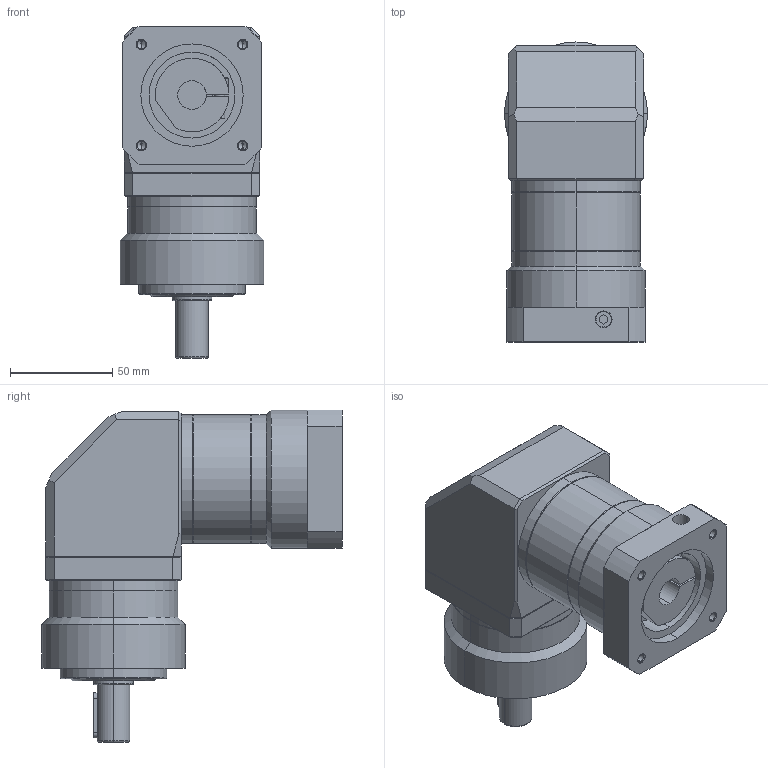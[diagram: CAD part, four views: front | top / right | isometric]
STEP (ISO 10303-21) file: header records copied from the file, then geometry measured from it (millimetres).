
FILE_DESCRIPTION(/* description */ (''),/* implementation_level */ '2;1');
FILE_NAME(/* name */ 'GER070-_3-100_ 外形图-∅14x36.5-∅50x6-∅70xM5-□67.5_step.stp',/* time_stamp */ '2025-03-24T15:02:35+08:00',/* author */ (''),/* organization */ (''),/* preprocessor_version */ 'ST-DEVELOPER v18.102',/* originating_system */ 'SIEMENS PLM Software NX 2027',/* authorisation */ '');
FILE_SCHEMA (('AUTOMOTIVE_DESIGN { 1 0 10303 214 3 1 1 1 }'));
Length unit declared in the file: millimetre
Products named in the file (1): GER070-_3-100_ 外形图-∅14x34-∅50x
6-∅70xM5-□65_step_objects
Bounding box: 70 x 146.75 x 162.25 mm (x, y, z)
Volume: 743182.4 mm3; surface area: 67874.7 mm2
Topology: 1 solids, 1 shells, 220 faces, 504 edges, 293 vertices
Faces by surface type: plane 98, cylinder 66, cone 47, torus 9
Entity records: 6096 total; most frequent: CARTESIAN_POINT 1107, DIRECTION 1092, ORIENTED_EDGE 966, EDGE_CURVE 483, AXIS2_PLACEMENT_3D 397, LINE 298, VECTOR 298, VERTEX_POINT 292
